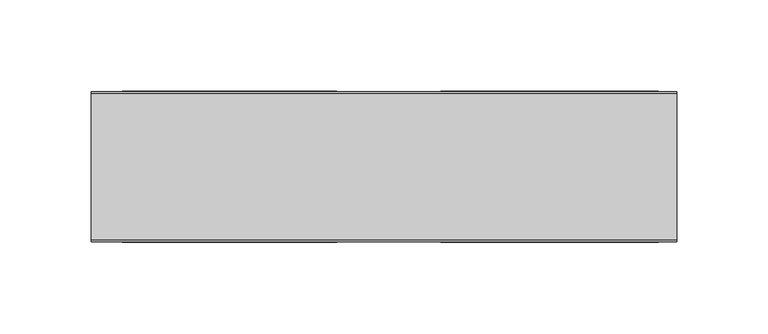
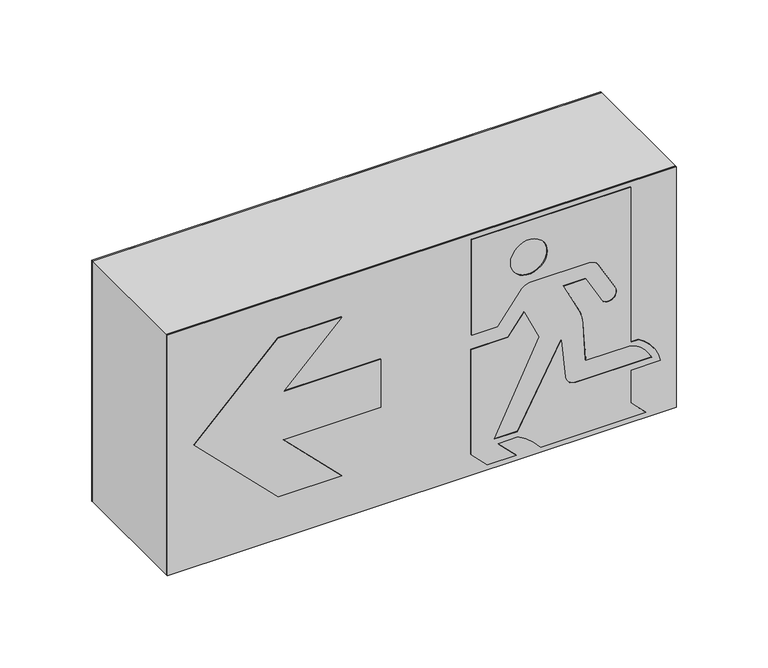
"""IFC4 building model written with IfcOpenShell, lengths in millimetres: light fixture geometry, AI_Luminaire_BAES : BAES."""

from ifc_helpers import new_model, si_unit, point, frame, frame_2d, origin, place, context, project, spatial, polyline, circle_curve, trimmed, segment, composite_curve, outline, extrude, source, transform, mapped, element, save


def light_fixture_d6a2bba2(model_context):
    return source(origin(), model_context, "Body", "SweptSolid", [
        extrude(outline(polyline([(160.0, 40.0), (160.0, -40.0), (-160.0, -40.0), (-160.0, 40.0), (160.0, 40.0)])), frame((0.0, 0.0, -40.4480749), z_axis=(0.0, 0.0, 1.0), x_axis=(1.0, 0.0, 0.0)), (0.0, 0.0, 1.0), 160.0),
        extrude(outline(composite_curve([segment(trimmed(circle_curve(frame_2d((-10.6256364, 123.633183)), 26.7908113), [point((-5.5839397, 149.9453258))], [point((12.9437499, 136.3701998))], False, "CARTESIAN"), True, "CONTINUOUS"), segment(polyline([(12.9437499, 136.3701998), (12.9437499, 131.3701998), (116.1026953, 131.3701998), (116.1026953, 31.2880738), (52.7951381, 31.2880738), (52.7951381, 47.5101046), (71.3706793, 61.5077789)]), True, "CONTINUOUS"), segment(trimmed(circle_curve(frame_2d((65.7692922, 68.9410707)), 9.3074897), [point((71.3706793, 61.5077789))], [point((75.0767819, 68.9410707))], True, "CARTESIAN"), True, "CONTINUOUS"), segment(polyline([(75.0767819, 68.9410707), (75.0767819, 104.9644199)]), True, "CONTINUOUS"), segment(trimmed(circle_curve(frame_2d((68.1162004, 104.9644199)), 6.9605815), [point((75.0767819, 104.9644199))], [point((71.5964911, 110.9924603))], True, "CARTESIAN"), True, "CONTINUOUS"), segment(polyline([(71.5964911, 110.9924603), (52.6548568, 121.928418)]), True, "CONTINUOUS"), segment(trimmed(circle_curve(frame_2d((50.0773944, 117.4641222)), 5.1549248), [point((52.6548568, 121.928418))], [point((48.6385749, 112.5140669))], True, "CARTESIAN"), True, "CONTINUOUS"), segment(polyline([(48.6385749, 112.5140669), (65.0767819, 103.0234636), (65.0767819, 89.3157163), (44.0080452, 99.5916258)]), True, "CONTINUOUS"), segment(trimmed(circle_curve(frame_2d((34.9615974, 81.043659)), 20.6365038), [point((44.0080452, 99.5916258))], [point((36.0416285, 101.6518812))], True, "CARTESIAN"), True, "CONTINUOUS"), segment(polyline([(36.0416285, 101.6518812), (10.9611958, 102.966291), (10.9611958, 130.9427489)]), True, "CONTINUOUS"), segment(trimmed(circle_curve(frame_2d((-10.6256364, 123.633183)), 22.7908113), [point((10.9611958, 130.9427489))], [point((-1.7200531, 144.6120214))], True, "CARTESIAN"), True, "CONTINUOUS"), segment(polyline([(-1.7200531, 144.6120214), (-1.7200531, 97.1419016)]), True, "CONTINUOUS"), segment(trimmed(circle_curve(frame_2d((5.1338243, 97.1419016)), 6.8538774), [point((-1.7200531, 97.1419016))], [point((4.417399, 90.3255705))], True, "CARTESIAN"), True, "CONTINUOUS"), segment(polyline([(4.417399, 90.3255705), (29.5202241, 87.6871573), (-21.5051486, 60.338563), (-21.5051486, 45.3160229), (37.0663551, 73.5007519), (56.4673563, 64.4539165), (43.1421407, 54.4126463), (43.1421407, 31.094226), (-26.6991246, 31.094226), (-36.8543249, 41.2494263), (-36.8543249, 59.4538996), (-25.0147236, 47.6142983), (-25.0147236, 60.269247)]), True, "CONTINUOUS"), segment(trimmed(circle_curve(frame_2d((-59.891858, 43.66857)), 38.6263767), [point((-25.0147236, 60.269247))], [point((-36.8543249, 74.6729091))], True, "CARTESIAN"), True, "CONTINUOUS"), segment(polyline([(-36.8543249, 74.6729091), (-36.8543249, 140.9222446), (-27.3324906, 131.4004103), (-5.5839397, 131.4004103), (-5.5839397, 149.9453258)]), True, "CONTINUOUS")], self_intersect=False), holes=[composite_curve([segment(trimmed(circle_curve(frame_2d((92.0966865, 67.3046146)), 11.5), [point((92.0966865, 55.8046146))], [point((92.0966865, 78.8046146))], True, "CARTESIAN"), True, "CONTINUOUS"), segment(trimmed(circle_curve(frame_2d((92.0966865, 67.3046146)), 11.5), [point((92.0966865, 78.8046146))], [point((92.0966865, 55.8046146))], True, "CARTESIAN"), True, "CONTINUOUS")], self_intersect=False)]), frame((0.0, 40.2, 0.0), z_axis=(0.0, 1.0, 0.0), x_axis=(0.0, 0.0, 1.0)), (0.0, 0.0, 1.0), 1.0),
        extrude(outline(polyline([(56.728485, -87.1176551), (93.4134966, -50.4326435), (93.4134966, -90.337854), (40.728485, -143.0228655), (-11.9565265, -90.337854), (-11.9565265, -50.4326435), (24.728485, -87.1176551), (24.728485, -25.7788723), (56.728485, -25.7788723), (56.728485, -87.1176551)])), frame((0.0, 40.0, 0.0), z_axis=(0.0, 1.0, 0.0), x_axis=(0.0, 0.0, 1.0)), (0.0, 0.0, 1.0), 1.2),
        extrude(outline(polyline([(-160.0, 41.0), (160.0, 41.0), (160.0, 40.2), (-160.0, 40.2), (-160.0, 41.0)])), frame((0.0, 0.0, -40.4480749), z_axis=(0.0, 0.0, 1.0), x_axis=(1.0, 0.0, 0.0)), (0.0, 0.0, 1.0), 160.0),
        extrude(outline(composite_curve([segment(trimmed(circle_curve(frame_2d((0.0, -26.7908113)), 26.7908113), [point((-5.0416967, -53.1029541))], [point((-23.5693863, -39.5278281))], False, "CARTESIAN"), True, "CONTINUOUS"), segment(polyline([(-23.5693863, -39.5278281), (-23.5693863, -34.5278281), (-126.7283317, -34.5278281), (-126.7283317, 65.5542979), (-63.4207745, 65.5542979), (-63.4207745, 49.3322671), (-81.9963157, 35.3345928)]), True, "CONTINUOUS"), segment(trimmed(circle_curve(frame_2d((-76.3949286, 27.901301)), 9.3074897), [point((-81.9963157, 35.3345928))], [point((-85.7024183, 27.901301))], True, "CARTESIAN"), True, "CONTINUOUS"), segment(polyline([(-85.7024183, 27.901301), (-85.7024183, -8.1220482)]), True, "CONTINUOUS"), segment(trimmed(circle_curve(frame_2d((-78.7418368, -8.1220482)), 6.9605815), [point((-85.7024183, -8.1220482))], [point((-82.2221275, -14.1500886))], True, "CARTESIAN"), True, "CONTINUOUS"), segment(polyline([(-82.2221275, -14.1500886), (-63.2804932, -25.0860463)]), True, "CONTINUOUS"), segment(trimmed(circle_curve(frame_2d((-60.7030308, -20.6217505)), 5.1549248), [point((-63.2804932, -25.0860463))], [point((-59.2642113, -15.6716952))], True, "CARTESIAN"), True, "CONTINUOUS"), segment(polyline([(-59.2642113, -15.6716952), (-75.7024183, -6.1810919), (-75.7024183, 7.5266554), (-54.6336816, -2.7492541)]), True, "CONTINUOUS"), segment(trimmed(circle_curve(frame_2d((-45.5872338, 15.7987127)), 20.6365038), [point((-54.6336816, -2.7492541))], [point((-46.6672649, -4.8095095))], True, "CARTESIAN"), True, "CONTINUOUS"), segment(polyline([(-46.6672649, -4.8095095), (-21.5868322, -6.1239193), (-21.5868322, -34.1003772)]), True, "CONTINUOUS"), segment(trimmed(circle_curve(frame_2d((0.0, -26.7908113)), 22.7908113), [point((-21.5868322, -34.1003772))], [point((-8.9055833, -47.7696497))], True, "CARTESIAN"), True, "CONTINUOUS"), segment(polyline([(-8.9055833, -47.7696497), (-8.9055833, -0.2995299)]), True, "CONTINUOUS"), segment(trimmed(circle_curve(frame_2d((-15.7594607, -0.2995299)), 6.8538774), [point((-8.9055833, -0.2995299))], [point((-15.0430354, 6.5168012))], True, "CARTESIAN"), True, "CONTINUOUS"), segment(polyline([(-15.0430354, 6.5168012), (-40.1458605, 9.1552144), (10.8795122, 36.5038087), (10.8795122, 51.5263488), (-47.6919915, 23.3416198), (-67.0929927, 32.3884552), (-53.7677771, 42.4297254), (-53.7677771, 65.7481457), (16.0734882, 65.7481457), (26.2286885, 55.5929454), (26.2286885, 37.3884721), (14.3890872, 49.2280734), (14.3890872, 36.5731247)]), True, "CONTINUOUS"), segment(trimmed(circle_curve(frame_2d((49.2662216, 53.1738017)), 38.6263767), [point((14.3890872, 36.5731247))], [point((26.2286885, 22.1694626))], True, "CARTESIAN"), True, "CONTINUOUS"), segment(polyline([(26.2286885, 22.1694626), (26.2286885, -44.0798729), (16.7068542, -34.5580386), (-5.0416967, -34.5580386), (-5.0416967, -53.1029541)]), True, "CONTINUOUS")], self_intersect=False), holes=[composite_curve([segment(trimmed(circle_curve(frame_2d((-102.7223229, 29.5377571)), 11.5), [point((-102.7223229, 41.0377571))], [point((-102.7223229, 18.0377571))], True, "CARTESIAN"), True, "CONTINUOUS"), segment(trimmed(circle_curve(frame_2d((-102.7223229, 29.5377571)), 11.5), [point((-102.7223229, 18.0377571))], [point((-102.7223229, 41.0377571))], True, "CARTESIAN"), True, "CONTINUOUS")], self_intersect=False)]), frame((96.8423717, -41.2, -10.6256364), z_axis=(-3.6444929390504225e-12, 1.0, 0.0), x_axis=(0.0, 0.0, -1.0)), (0.0, 0.0, 1.0), 1.0),
        extrude(outline(polyline([(0.0, 0.0), (51.8804409, 0.0), (23.663196, -28.2172449), (-50.8446619, -28.2172449), (-50.8446619, 46.2906129), (-22.6274169, 74.5078579), (-22.627417, 22.627417), (20.7456523, 66.0004863), (43.3730693, 43.3730693), (0.0, 0.0)])), frame((-87.1176551, -41.2, 56.728485), z_axis=(-3.6444929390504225e-12, 1.0, 0.0), x_axis=(0.7071067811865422, 2.575711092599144e-12, 0.7071067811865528)), (0.0, 0.0, 1.0), 1.2),
        extrude(outline(polyline([(160.0, -41.0), (-160.0, -41.0), (-160.0, -40.2), (160.0, -40.2), (160.0, -41.0)])), frame((0.0, 0.0, -40.4480749), z_axis=(0.0, 0.0, 1.0), x_axis=(1.0, 0.0, 0.0)), (0.0, 0.0, 1.0), 160.0),
    ])


if __name__ == "__main__":
    model = new_model("IFC4")
    model_context = context("Model", 3, world=origin())
    ifc_project = project(units=[si_unit("LENGTHUNIT", "METRE", prefix="MILLI")], contexts=[model_context])
    site = spatial("IfcSite", under=ifc_project)
    building = spatial("IfcBuilding", under=site)
    placement = place(None, origin())
    light_fixture_shape = light_fixture_d6a2bba2(model_context)
    element("IfcLightFixture", 1, ObjectType="AI_Luminaire_BAES : BAES", at=placement, inside=building, context=model_context, shape_type="MappedRepresentation", body=[
        mapped(light_fixture_shape, transform((0.0, 0.0, 0.0), x_axis=(1.0, 0.0, 0.0), y_axis=(0.0, 1.0, 0.0), z_axis=(0.0, 0.0, 1.0))),
    ])
    save(model, "model.ifc")
